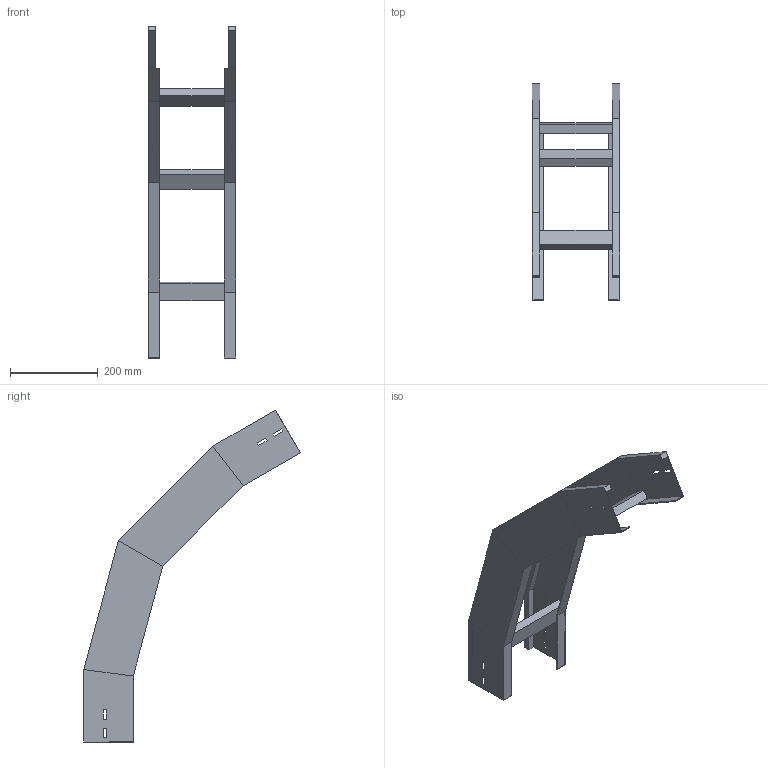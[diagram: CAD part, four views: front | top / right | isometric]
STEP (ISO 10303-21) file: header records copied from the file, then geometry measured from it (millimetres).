
FILE_DESCRIPTION (( 'STEP AP214' ), '1' );
FILE_NAME ('41B5J200.step', '2025-02-21T14:57:38', ( '' ), ( '' ), 'SwSTEP 2.0', 'SolidWorks 2023', '' );
FILE_SCHEMA (( 'AUTOMOTIVE_DESIGN' ));
Length unit declared in the file: millimetre
Products named in the file (3): 41B5J200; TRAVERSINO_200; LONGH.DISCESA_60°_H112.5_R500
Assembly tree (5 placements, depth 2):
  41B5J200
    LONGH.DISCESA_60°_H112.5_R500  x2
    TRAVERSINO_200  x3
Bounding box: 200 x 492.58 x 755.74 mm (x, y, z)
Volume: 1308281.3 mm3; surface area: 619857.2 mm2
Topology: 5 solids, 5 shells, 118 faces, 276 edges, 168 vertices
Faces by surface type: plane 118
Entity records: 1672 total; most frequent: CARTESIAN_POINT 276, ORIENTED_EDGE 264, DIRECTION 260, EDGE_CURVE 132, VECTOR 132, LINE 132, VERTEX_POINT 80, AXIS2_PLACEMENT_3D 64
